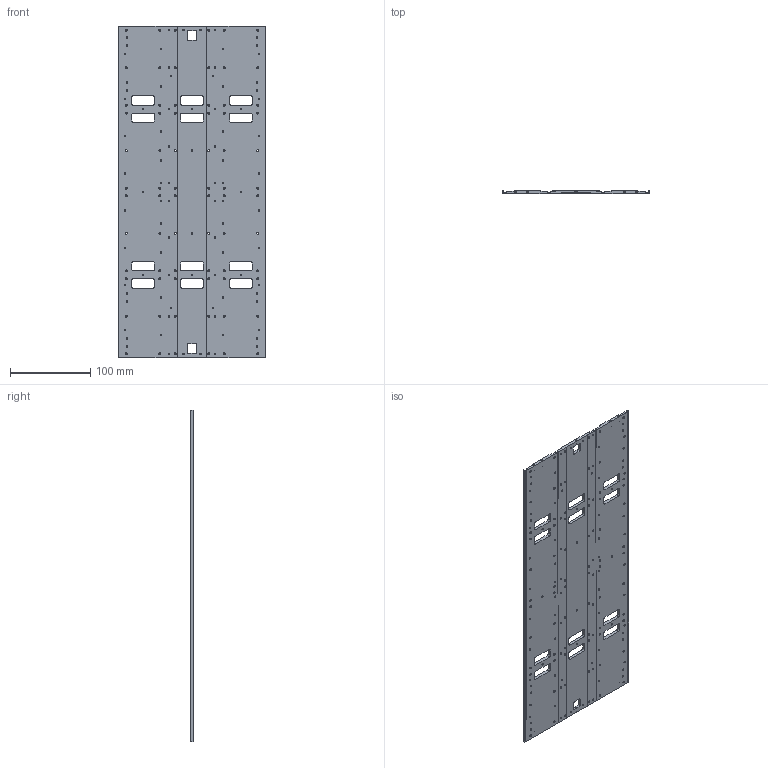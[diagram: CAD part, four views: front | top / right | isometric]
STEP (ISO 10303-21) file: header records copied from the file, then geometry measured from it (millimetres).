
FILE_DESCRIPTION(/* description */ (''),/* implementation_level */ '2;1');
FILE_NAME(/* name */ '210908_TubesOnTop_v3_CPtype2.stp',/* time_stamp */ '2021-09-10T14:17:58+02:00',/* author */ (''),/* organization */ (''),/* preprocessor_version */ 'ST-DEVELOPER v16.7',/* originating_system */ 'SIEMENS PLM Software NX 1919',/* authorisation */ '');
FILE_SCHEMA (('AUTOMOTIVE_DESIGN { 1 0 10303 214 3 1 1 1 }'));
Length unit declared in the file: millimetre
Products named in the file (1): 210908_TubesOnTop_v3_CPtype2
Bounding box: 184 x 4 x 413.3 mm (x, y, z)
Volume: 232836.7 mm3; surface area: 164188.2 mm2
Topology: 1 solids, 1 shells, 554 faces, 1561 edges, 1085 vertices
Faces by surface type: cylinder 340, plane 190, cone 24
Full cylindrical faces by diameter (mm): 2.05 x92, 2.5 x78, 4 x2, 6 x72
Entity records: 16340 total; most frequent: DIRECTION 2938, CARTESIAN_POINT 2613, ORIENTED_EDGE 2260, EDGE_LOOP 1254, AXIS2_PLACEMENT_3D 1253, EDGE_CURVE 1130, FACE_BOUND 1062, VERTEX_POINT 928
